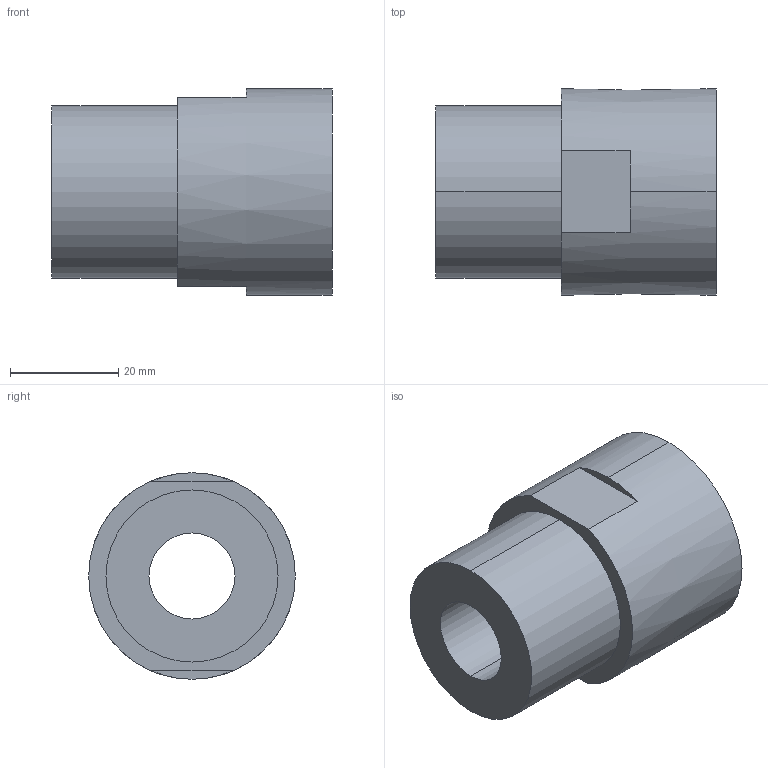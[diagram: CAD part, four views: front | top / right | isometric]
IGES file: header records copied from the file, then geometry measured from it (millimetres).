
Start section: SolidWorks IGES file using analytic representation for surfaces
Global section: file name: S:\Product Visuals\Defeatured Models and Parts Library\Parts Library IGES & STEP\Liquid Fittings\Front Mount liquid Fittings\Female NPT\60LPM\Fitting FNPT 08.IGS; native system: SolidWorks 2012; preprocessor: SolidWorks 2012; author: rachel.dressel; date: 120926.141101; units: inch
Bounding box: 51.69 x 38.1 x 38.1 mm (x, y, z)
Volume: 39214.9 mm3; surface area: 10296.8 mm2
Topology: 1 solids, 1 shells, 16 faces, 36 edges, 24 vertices
Faces by surface type: revolution 8, plane 8
